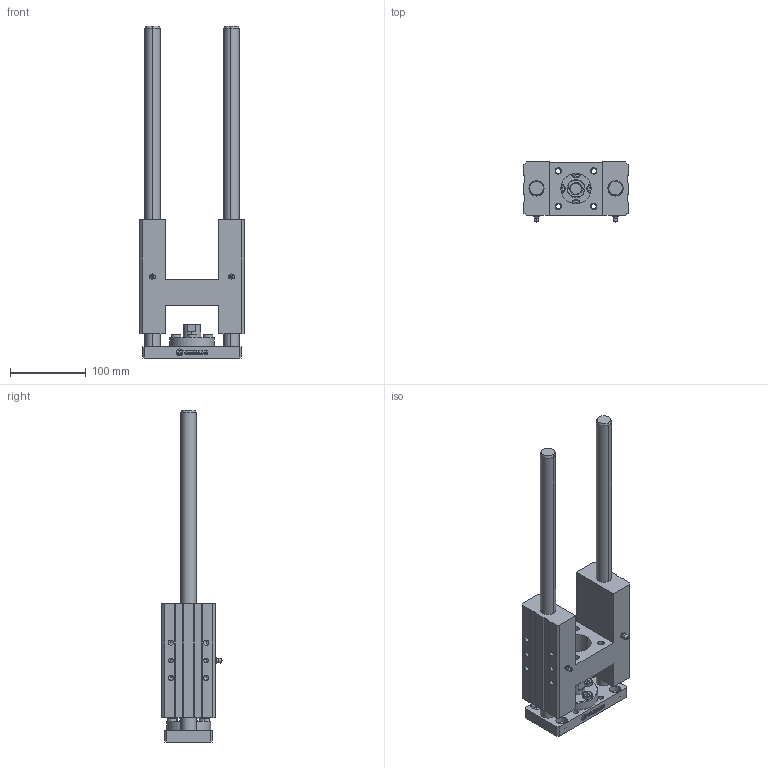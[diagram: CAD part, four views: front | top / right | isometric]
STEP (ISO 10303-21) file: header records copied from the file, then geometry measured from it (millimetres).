
FILE_DESCRIPTION (( 'STEP AP214' ), '1' );
FILE_NAME ('WHCR-050-0250 (3D).STEP', '2018-11-28T13:42:26', ( 'Hidtek' ), ( '' ), 'SwSTEP 2.0', 'SolidWorks 2016', '' );
FILE_SCHEMA (( 'AUTOMOTIVE_DESIGN' ));
Length unit declared in the file: millimetre
Products named in the file (4): Group2^WHCR-050-0250 (3D); Group3^WHCR-050-0250 (3D); Group1^WHCR-050-0250 (3D); WHCR-050-0250 (3D)
Assembly tree (3 placements, depth 2):
  WHCR-050-0250 (3D)
    Group1^WHCR-050-0250 (3D)
    Group2^WHCR-050-0250 (3D)
    Group3^WHCR-050-0250 (3D)
Bounding box: 137 x 79.05 x 437 mm (x, y, z)
Volume: 1110176.9 mm3; surface area: 208110.1 mm2
Topology: 14 solids, 14 shells, 674 faces, 1691 edges, 1060 vertices
Faces by surface type: plane 348, cylinder 142, bspline 104, cone 80
Entity records: 26654 total; most frequent: CARTESIAN_POINT 9343, ORIENTED_EDGE 3254, DIRECTION 2957, EDGE_CURVE 1627, VERTEX_POINT 1060, LINE 1041, VECTOR 1041, AXIS2_PLACEMENT_3D 958
